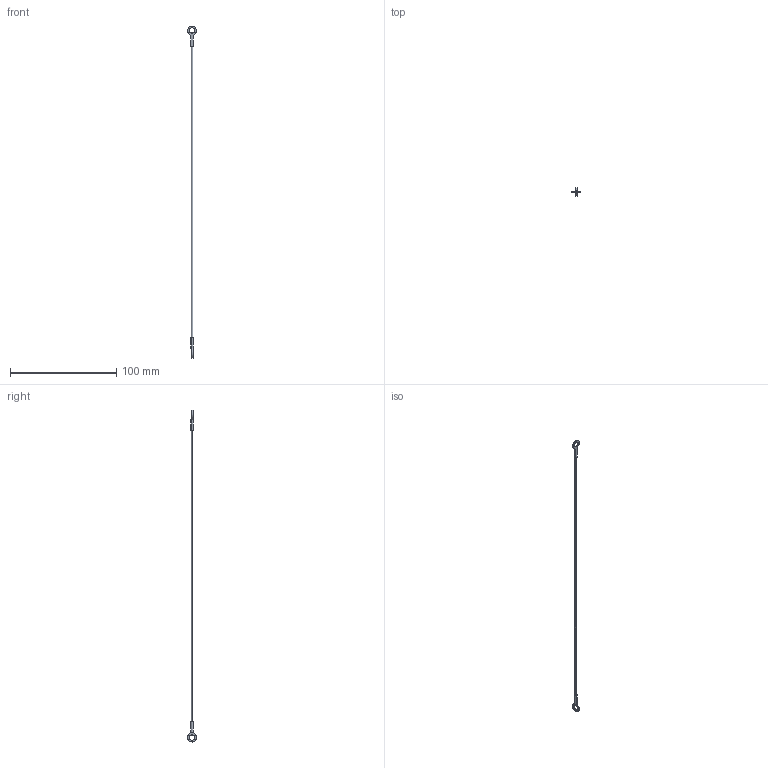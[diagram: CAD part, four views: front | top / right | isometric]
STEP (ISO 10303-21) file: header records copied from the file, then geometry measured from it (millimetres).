
FILE_DESCRIPTION (( 'STEP AP203' ), '1' );
FILE_NAME ('LA1070.I04-304N1.step', '2026-03-23T14:48:38', ( '' ), ( '' ), 'SwSTEP 2.0', 'SolidWorks 2019', '' );
FILE_SCHEMA (( 'CONFIG_CONTROL_DESIGN' ));
Length unit declared in the file: millimetre
Products named in the file (1): LA1070.I04-304N1
Bounding box: 8.36 x 8.35 x 313.16 mm (x, y, z)
Volume: 696.9 mm3; surface area: 1757.1 mm2
Topology: 1 solids, 1 shells, 27 faces, 61 edges, 38 vertices
Faces by surface type: plane 16, cylinder 11
Entity records: 852 total; most frequent: CARTESIAN_POINT 151, DIRECTION 133, ORIENTED_EDGE 122, EDGE_CURVE 61, AXIS2_PLACEMENT_3D 48, VERTEX_POINT 38, VECTOR 37, LINE 37
